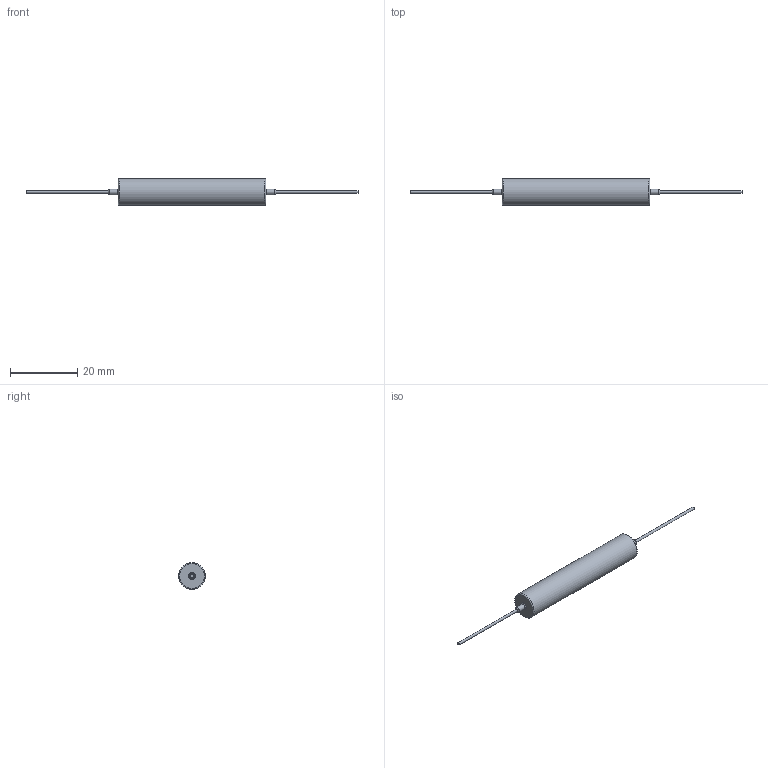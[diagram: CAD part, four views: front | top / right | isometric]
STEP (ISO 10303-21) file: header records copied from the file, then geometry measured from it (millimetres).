
FILE_DESCRIPTION((''),'2;1');
FILE_NAME('P:\Work\User\Special\CAD\Widerstand Serien\AC-Serie\axiale Ausführung\AC1000000XXXXJAB00.stp','2015-10-26T07:36:45',('klepschi'),(''),'Autodesk Inventor 2013','Autodesk Inventor 2013','');
FILE_SCHEMA(('AUTOMOTIVE_DESIGN { 1 0 10303 214 1 1 1 1 }'));
Length unit declared in the file: millimetre
Products named in the file (1): AC1000000XXXXJAB00
Bounding box: 99 x 8 x 8 mm (x, y, z)
Volume: 2247.5 mm3; surface area: 1350.5 mm2
Topology: 1 solids, 1 shells, 17 faces, 27 edges, 16 vertices
Faces by surface type: torus 6, plane 6, cylinder 5
Full cylindrical faces by diameter (mm): 0.8 x2, 1.6 x2, 8 x1
Entity records: 380 total; most frequent: DIRECTION 68, CARTESIAN_POINT 50, AXIS2_PLACEMENT_3D 34, ORIENTED_EDGE 32, EDGE_LOOP 32, FACE_OUTER_BOUND 17, ADVANCED_FACE 17, VERTEX_POINT 16
